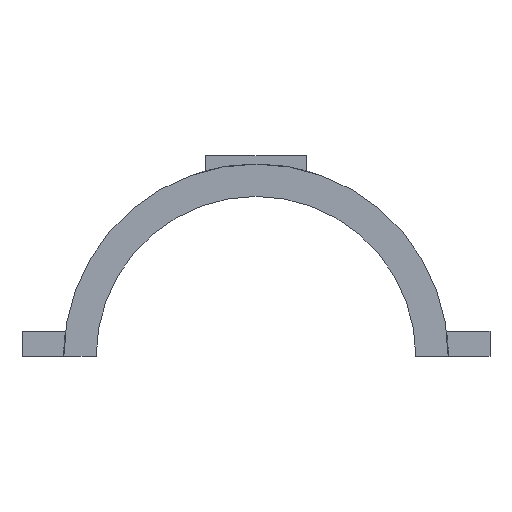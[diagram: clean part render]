
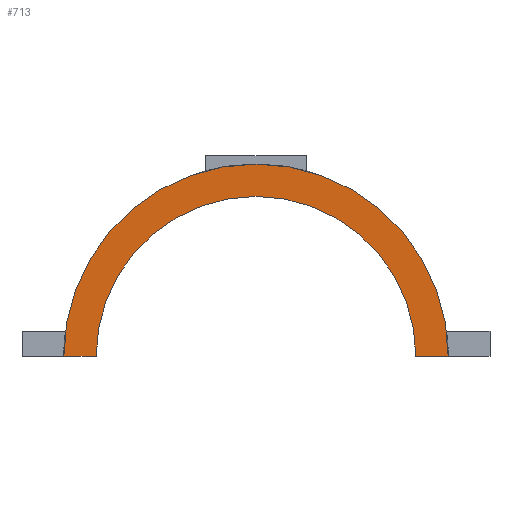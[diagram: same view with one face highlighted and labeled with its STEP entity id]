
A CAD part, left-side view. The second image highlights one B-rep face of the part: STEP entity #713.
In plain terms, the highlighted planar face has unit normal (-1, 0, 0).
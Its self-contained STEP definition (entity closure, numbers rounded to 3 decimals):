
#21 = EDGE_CURVE('',#22,#24,#26,.T.);
#22 = VERTEX_POINT('',#23);
#23 = CARTESIAN_POINT('',(25.,46.,0.));
#24 = VERTEX_POINT('',#25);
#25 = CARTESIAN_POINT('',(25.,-46.,0.));
#26 = SURFACE_CURVE('',#27,(#32,#44),.PCURVE_S1.);
#27 = CIRCLE('',#28,46.);
#28 = AXIS2_PLACEMENT_3D('',#29,#30,#31);
#29 = CARTESIAN_POINT('',(25.,0.,0.));
#30 = DIRECTION('',(1.,0.,0.));
#31 = DIRECTION('',(0.,1.,0.));
#32 = PCURVE('',#33,#38);
#33 = CYLINDRICAL_SURFACE('',#34,46.);
#34 = AXIS2_PLACEMENT_3D('',#35,#36,#37);
#35 = CARTESIAN_POINT('',(25.,0.,0.));
#36 = DIRECTION('',(-1.,-0.,-0.));
#37 = DIRECTION('',(0.,1.,0.));
#38 = DEFINITIONAL_REPRESENTATION('',(#39),#43);
#39 = LINE('',#40,#41);
#40 = CARTESIAN_POINT('',(-0.,0.));
#41 = VECTOR('',#42,1.);
#42 = DIRECTION('',(-1.,0.));
#43 = ( GEOMETRIC_REPRESENTATION_CONTEXT(2) 
PARAMETRIC_REPRESENTATION_CONTEXT() REPRESENTATION_CONTEXT('2D SPACE',''
  ) );
#44 = PCURVE('',#45,#50);
#45 = PLANE('',#46);
#46 = AXIS2_PLACEMENT_3D('',#47,#48,#49);
#47 = CARTESIAN_POINT('',(25.,0.,0.));
#48 = DIRECTION('',(1.,0.,0.));
#49 = DIRECTION('',(-0.,0.,1.));
#50 = DEFINITIONAL_REPRESENTATION('',(#51),#55);
#51 = CIRCLE('',#52,46.);
#52 = AXIS2_PLACEMENT_2D('',#53,#54);
#53 = CARTESIAN_POINT('',(0.,0.));
#54 = DIRECTION('',(0.,-1.));
#55 = ( GEOMETRIC_REPRESENTATION_CONTEXT(2) 
PARAMETRIC_REPRESENTATION_CONTEXT() REPRESENTATION_CONTEXT('2D SPACE',''
  ) );
#73 = PLANE('',#74);
#74 = AXIS2_PLACEMENT_3D('',#75,#76,#77);
#75 = CARTESIAN_POINT('',(-200.,-200.,0.));
#76 = DIRECTION('',(0.,0.,1.));
#77 = DIRECTION('',(1.,0.,-0.));
#359 = PLANE('',#360);
#360 = AXIS2_PLACEMENT_3D('',#361,#362,#363);
#361 = CARTESIAN_POINT('',(-200.,-200.,0.));
#362 = DIRECTION('',(0.,0.,1.));
#363 = DIRECTION('',(1.,0.,-0.));
#713 = ADVANCED_FACE('',(#714),#45,.F.);
#714 = FACE_BOUND('',#715,.F.);
#715 = EDGE_LOOP('',(#716,#737,#738,#759));
#716 = ORIENTED_EDGE('',*,*,#717,.F.);
#717 = EDGE_CURVE('',#22,#718,#720,.T.);
#718 = VERTEX_POINT('',#719);
#719 = CARTESIAN_POINT('',(25.,38.25,0.));
#720 = SURFACE_CURVE('',#721,(#725,#731),.PCURVE_S1.);
#721 = LINE('',#722,#723);
#722 = CARTESIAN_POINT('',(25.,-100.,0.));
#723 = VECTOR('',#724,1.);
#724 = DIRECTION('',(0.,-1.,0.));
#725 = PCURVE('',#45,#726);
#726 = DEFINITIONAL_REPRESENTATION('',(#727),#730);
#727 = B_SPLINE_CURVE_WITH_KNOTS('',1,(#728,#729),.UNSPECIFIED.,.F.,.F.,
  (2,2),(-146.,-54.),.PIECEWISE_BEZIER_KNOTS.);
#728 = CARTESIAN_POINT('',(0.,-46.));
#729 = CARTESIAN_POINT('',(0.,46.));
#730 = ( GEOMETRIC_REPRESENTATION_CONTEXT(2) 
PARAMETRIC_REPRESENTATION_CONTEXT() REPRESENTATION_CONTEXT('2D SPACE',''
  ) );
#731 = PCURVE('',#73,#732);
#732 = DEFINITIONAL_REPRESENTATION('',(#733),#736);
#733 = B_SPLINE_CURVE_WITH_KNOTS('',1,(#734,#735),.UNSPECIFIED.,.F.,.F.,
  (2,2),(-146.,-54.),.PIECEWISE_BEZIER_KNOTS.);
#734 = CARTESIAN_POINT('',(225.,246.));
#735 = CARTESIAN_POINT('',(225.,154.));
#736 = ( GEOMETRIC_REPRESENTATION_CONTEXT(2) 
PARAMETRIC_REPRESENTATION_CONTEXT() REPRESENTATION_CONTEXT('2D SPACE',''
  ) );
#737 = ORIENTED_EDGE('',*,*,#21,.T.);
#738 = ORIENTED_EDGE('',*,*,#739,.F.);
#739 = EDGE_CURVE('',#740,#24,#742,.T.);
#740 = VERTEX_POINT('',#741);
#741 = CARTESIAN_POINT('',(25.,-38.25,0.));
#742 = SURFACE_CURVE('',#743,(#747,#753),.PCURVE_S1.);
#743 = LINE('',#744,#745);
#744 = CARTESIAN_POINT('',(25.,-100.,0.));
#745 = VECTOR('',#746,1.);
#746 = DIRECTION('',(0.,-1.,0.));
#747 = PCURVE('',#45,#748);
#748 = DEFINITIONAL_REPRESENTATION('',(#749),#752);
#749 = B_SPLINE_CURVE_WITH_KNOTS('',1,(#750,#751),.UNSPECIFIED.,.F.,.F.,
  (2,2),(-146.,-54.),.PIECEWISE_BEZIER_KNOTS.);
#750 = CARTESIAN_POINT('',(0.,-46.));
#751 = CARTESIAN_POINT('',(0.,46.));
#752 = ( GEOMETRIC_REPRESENTATION_CONTEXT(2) 
PARAMETRIC_REPRESENTATION_CONTEXT() REPRESENTATION_CONTEXT('2D SPACE',''
  ) );
#753 = PCURVE('',#359,#754);
#754 = DEFINITIONAL_REPRESENTATION('',(#755),#758);
#755 = B_SPLINE_CURVE_WITH_KNOTS('',1,(#756,#757),.UNSPECIFIED.,.F.,.F.,
  (2,2),(-146.,-54.),.PIECEWISE_BEZIER_KNOTS.);
#756 = CARTESIAN_POINT('',(225.,246.));
#757 = CARTESIAN_POINT('',(225.,154.));
#758 = ( GEOMETRIC_REPRESENTATION_CONTEXT(2) 
PARAMETRIC_REPRESENTATION_CONTEXT() REPRESENTATION_CONTEXT('2D SPACE',''
  ) );
#759 = ORIENTED_EDGE('',*,*,#760,.T.);
#760 = EDGE_CURVE('',#740,#718,#761,.T.);
#761 = SURFACE_CURVE('',#762,(#767,#778),.PCURVE_S1.);
#762 = CIRCLE('',#763,38.25);
#763 = AXIS2_PLACEMENT_3D('',#764,#765,#766);
#764 = CARTESIAN_POINT('',(25.,0.,0.));
#765 = DIRECTION('',(-1.,0.,0.));
#766 = DIRECTION('',(0.,1.,0.));
#767 = PCURVE('',#45,#768);
#768 = DEFINITIONAL_REPRESENTATION('',(#769),#777);
#769 = ( BOUNDED_CURVE() B_SPLINE_CURVE(2,(#770,#771,#772,#773,#774,#775
,#776),.UNSPECIFIED.,.T.,.F.) B_SPLINE_CURVE_WITH_KNOTS((1,2,2,2,2,1),(
    -2.094,0.,2.094,4.189,6.283,
8.378),.UNSPECIFIED.) CURVE() GEOMETRIC_REPRESENTATION_ITEM() 
RATIONAL_B_SPLINE_CURVE((1.,0.5,1.,0.5,1.,0.5,1.)) REPRESENTATION_ITEM(
  '') );
#770 = CARTESIAN_POINT('',(0.,-38.25));
#771 = CARTESIAN_POINT('',(-66.251,-38.25));
#772 = CARTESIAN_POINT('',(-33.125,19.125));
#773 = CARTESIAN_POINT('',(0.,76.5));
#774 = CARTESIAN_POINT('',(33.125,19.125));
#775 = CARTESIAN_POINT('',(66.251,-38.25));
#776 = CARTESIAN_POINT('',(0.,-38.25));
#777 = ( GEOMETRIC_REPRESENTATION_CONTEXT(2) 
PARAMETRIC_REPRESENTATION_CONTEXT() REPRESENTATION_CONTEXT('2D SPACE',''
  ) );
#778 = PCURVE('',#779,#784);
#779 = CYLINDRICAL_SURFACE('',#780,38.25);
#780 = AXIS2_PLACEMENT_3D('',#781,#782,#783);
#781 = CARTESIAN_POINT('',(24.,0.,0.));
#782 = DIRECTION('',(-1.,-0.,-0.));
#783 = DIRECTION('',(0.,1.,0.));
#784 = DEFINITIONAL_REPRESENTATION('',(#785),#789);
#785 = LINE('',#786,#787);
#786 = CARTESIAN_POINT('',(-6.283,-1.));
#787 = VECTOR('',#788,1.);
#788 = DIRECTION('',(1.,-0.));
#789 = ( GEOMETRIC_REPRESENTATION_CONTEXT(2) 
PARAMETRIC_REPRESENTATION_CONTEXT() REPRESENTATION_CONTEXT('2D SPACE',''
  ) );
